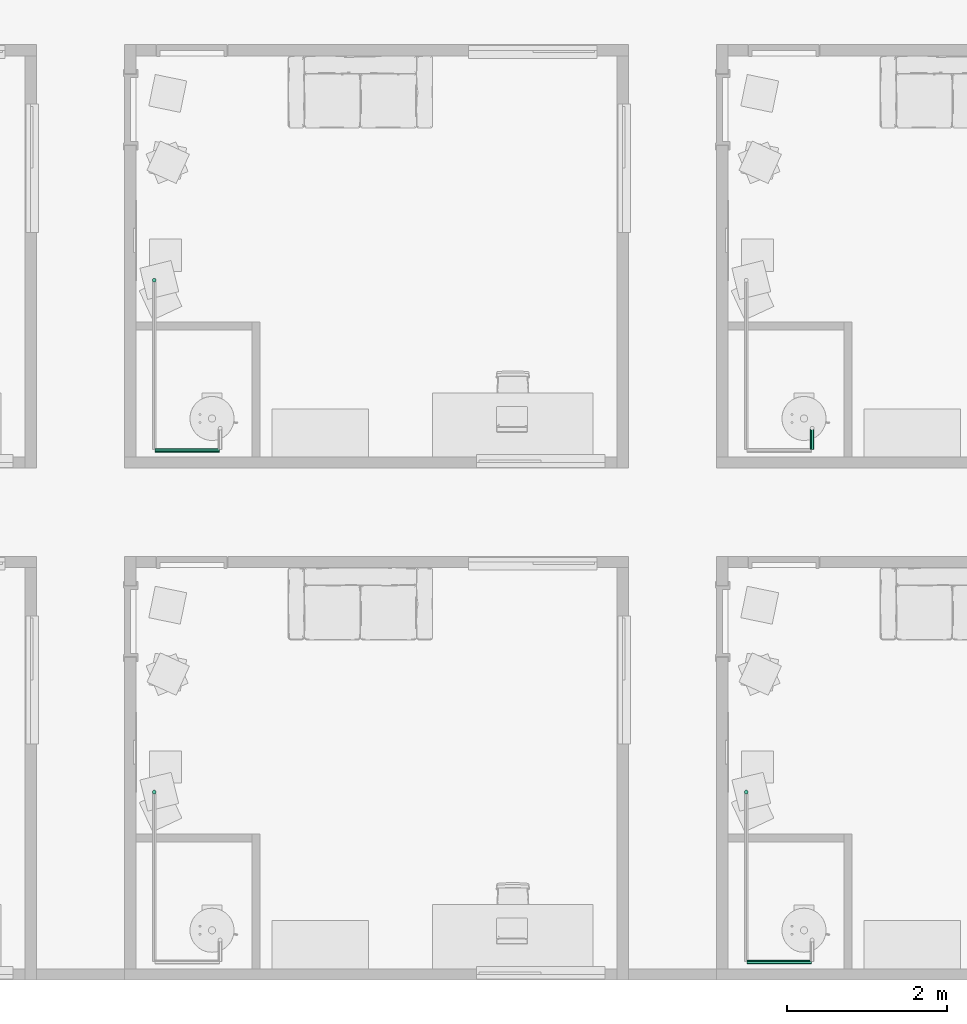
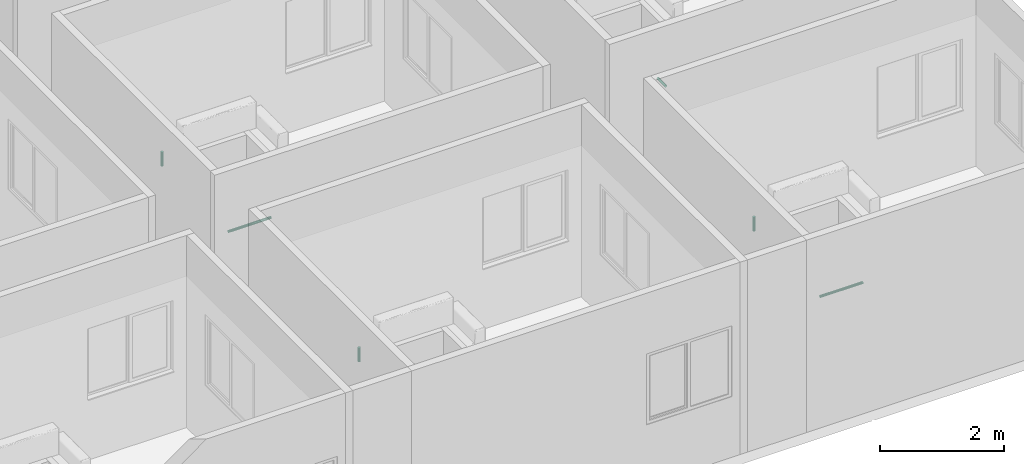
# One storey, part 50 of 71: 6 pipe segments.
"""IFC4 building model written with IfcOpenShell, lengths in centimetres."""

from ifc_helpers import new_model, entity, si_unit, converted_unit, derived_unit, direction, frame, origin, place, context, subcontext, project, spatial, arc, indexed_curve, outline, extrude, type_object, element, save


model = new_model("IFC4")

# Units and contexts
model_context = context("Model", 3, precision=0.001, world=origin(), true_north=direction((6.123233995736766e-17, 1.0)))
body_context = subcontext(model_context, "Body", "Model", "MODEL_VIEW")
ifc_project = project(units=[si_unit("LENGTHUNIT", "METRE", prefix="CENTI"), si_unit("AREAUNIT", "SQUARE_METRE"), si_unit("VOLUMEUNIT", "CUBIC_METRE"), derived_unit("THERMALTRANSMITTANCEUNIT", [(si_unit("MASSUNIT", "GRAM", prefix="KILO"), 1), (si_unit("THERMODYNAMICTEMPERATUREUNIT", "KELVIN"), -1), (si_unit("TIMEUNIT", "SECOND"), -3)]), converted_unit("PLANEANGLEUNIT", "DEGREE", entity("IfcPlaneAngleMeasure", 0.017453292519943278), si_unit("PLANEANGLEUNIT", "RADIAN"), dimensions=[0, 0, 0, 0, 0, 0, 0]), derived_unit("MASSDENSITYUNIT", [(si_unit("MASSUNIT", "GRAM", prefix="KILO"), 1), (si_unit("LENGTHUNIT", "METRE"), -3)]), derived_unit("VAPORPERMEABILITYUNIT", [(si_unit("LENGTHUNIT", "METRE"), -1), (si_unit("TIMEUNIT", "SECOND"), 1)]), derived_unit("USERDEFINED", [(si_unit("MASSUNIT", "GRAM", prefix="KILO"), 1), (si_unit("TIMEUNIT", "SECOND"), -3), (si_unit("LENGTHUNIT", "METRE"), 3), (si_unit("ELECTRICCURRENTUNIT", "AMPERE"), -2)]), derived_unit("SPECIFICHEATCAPACITYUNIT", [(si_unit("THERMODYNAMICTEMPERATUREUNIT", "KELVIN"), -1), (si_unit("LENGTHUNIT", "METRE"), 2), (si_unit("TIMEUNIT", "SECOND"), -2)]), derived_unit("THERMALCONDUCTANCEUNIT", [(si_unit("MASSUNIT", "GRAM", prefix="KILO"), 1), (si_unit("THERMODYNAMICTEMPERATUREUNIT", "KELVIN"), -1), (si_unit("TIMEUNIT", "SECOND"), -3), (si_unit("LENGTHUNIT", "METRE"), 1)]), si_unit("PRESSUREUNIT", "PASCAL"), derived_unit("MODULUSOFELASTICITYUNIT", [(si_unit("MASSUNIT", "GRAM", prefix="KILO"), 1), (si_unit("LENGTHUNIT", "METRE"), -1), (si_unit("TIMEUNIT", "SECOND"), -2)]), derived_unit("THERMALEXPANSIONCOEFFICIENTUNIT", [(si_unit("THERMODYNAMICTEMPERATUREUNIT", "KELVIN"), -1)])], contexts=[model_context])

# Site, building, storey
site_placement = place(None, origin())
site = spatial("IfcSite", under=ifc_project, at=site_placement, Name="Default", CompositionType="ELEMENT")
building_placement = place(site_placement, origin())
building = spatial("IfcBuilding", under=site, at=building_placement, Name="IDS Escape Game Building", CompositionType="ELEMENT")
storey_placement = place(building_placement, frame((0.0, 0.0, 400.0)))
storey = spatial("IfcBuildingStorey", under=building, at=storey_placement, Name="01_First Floor", CompositionType="ELEMENT", Elevation=399.99999999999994)

# Pipe segments
pipe_segment_type = type_object("IfcPipeSegmentType", Name="Pipe Types:Piping Aluminum", PredefinedType="NOTDEFINED")
pipe_segment_1_placement = place(storey_placement, origin())
element("IfcPipeSegment", 1, at=pipe_segment_1_placement, inside=storey, type_object=pipe_segment_type, Name="Pipe Types:Piping Aluminum", ObjectType="Pipe Types:Piping Aluminum", PredefinedType="NOTDEFINED", context=body_context, shape_type="SweptSolid", body=[
    extrude(outline(indexed_curve([(2.412999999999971, -2.7071678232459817e-14), (1.7062486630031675, 1.7062486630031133), (0.0, 2.412999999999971), (-1.7062486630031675, 1.7062486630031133), (-2.412999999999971, 0.0), (-1.7062486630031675, -1.7062486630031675), (0.0, -2.413000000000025), (1.7062486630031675, -1.7062486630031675)], segments=[arc(1, 2, 3), arc(3, 4, 5), arc(5, 6, 7), arc(7, 8, 1)], self_intersect=False)), frame((3720.0467168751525, 233.26482792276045, 244.09999999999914), z_axis=(0.0, 0.0, 1.0), x_axis=(-1.0, 0.0, 0.0)), (0.0, 0.0, 1.0), 27.900000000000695),
])
pipe_segment_2_placement = place(storey_placement, origin())
element("IfcPipeSegment", 2, at=pipe_segment_2_placement, inside=storey, type_object=pipe_segment_type, Name="Pipe Types:Piping Aluminum", ObjectType="Pipe Types:Piping Aluminum", PredefinedType="NOTDEFINED", context=body_context, shape_type="SweptSolid", body=[
    extrude(outline(indexed_curve([(2.412999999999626, -2.165734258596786e-13), (1.7062486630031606, 1.7062486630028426), (3.790034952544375e-13, 2.4130000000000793), (-1.7062486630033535, 1.706248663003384), (-2.4130000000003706, -2.165734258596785e-13), (-1.706248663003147, -1.706248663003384), (3.654676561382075e-13, -2.412999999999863), (1.7062486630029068, -1.7062486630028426)], segments=[arc(1, 2, 3), arc(3, 4, 5), arc(5, 6, 7), arc(7, 8, 1)], self_intersect=False)), frame((4459.146716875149, 21.26482792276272, 242.0), z_axis=(1.0, 0.0, 0.0), x_axis=(0.0, 1.0, 0.0)), (0.0, 0.0, 1.0), 79.90328312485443),
])
pipe_segment_3_placement = place(storey_placement, origin())
element("IfcPipeSegment", 3, at=pipe_segment_3_placement, inside=storey, type_object=pipe_segment_type, Name="Pipe Types:Piping Aluminum", ObjectType="Pipe Types:Piping Aluminum", PredefinedType="NOTDEFINED", context=body_context, shape_type="SweptSolid", body=[
    extrude(outline(indexed_curve([(2.4130000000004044, -2.7071678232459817e-14), (1.7062486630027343, 1.7062486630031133), (0.0, 2.412999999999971), (-1.7062486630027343, 1.7062486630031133), (-2.4130000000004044, 0.0), (-1.7062486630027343, -1.7062486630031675), (0.0, -2.413000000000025), (1.7062486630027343, -1.7062486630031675)], segments=[arc(1, 2, 3), arc(3, 4, 5), arc(5, 6, 7), arc(7, 8, 1)], self_intersect=False)), frame((4458.046716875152, 233.26482792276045, 244.09999999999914), z_axis=(0.0, 0.0, 1.0), x_axis=(-1.0, 0.0, 0.0)), (0.0, 0.0, 1.0), 27.900000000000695),
])
pipe_segment_4_placement = place(storey_placement, origin())
element("IfcPipeSegment", 4, at=pipe_segment_4_placement, inside=storey, type_object=pipe_segment_type, Name="Pipe Types:Piping Aluminum", ObjectType="Pipe Types:Piping Aluminum", PredefinedType="NOTDEFINED", context=body_context, shape_type="SweptSolid", body=[
    extrude(outline(indexed_curve([(2.4129999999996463, -2.165734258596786e-13), (1.7062486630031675, 1.7062486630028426), (4.331468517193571e-13, 2.4130000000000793), (-1.7062486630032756, 1.706248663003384), (-2.413000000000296, -2.165734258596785e-13), (-1.706248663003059, -1.706248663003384), (4.3314685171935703e-13, -2.412999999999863), (1.7062486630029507, -1.7062486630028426)], segments=[arc(1, 2, 3), arc(3, 4, 5), arc(5, 6, 7), arc(7, 8, 1)], self_intersect=False)), frame((3721.1467168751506, 659.2648279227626, 242.0), z_axis=(1.0, 0.0, 0.0), x_axis=(0.0, 1.0, 0.0)), (0.0, 0.0, 1.0), 79.90328312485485),
])
pipe_segment_5_placement = place(storey_placement, origin())
element("IfcPipeSegment", 5, at=pipe_segment_5_placement, inside=storey, type_object=pipe_segment_type, Name="Pipe Types:Piping Aluminum", ObjectType="Pipe Types:Piping Aluminum", PredefinedType="NOTDEFINED", context=body_context, shape_type="SweptSolid", body=[
    extrude(outline(indexed_curve([(2.412999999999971, 0.0), (1.7062486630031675, 1.7062486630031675), (0.0, 2.412999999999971), (-1.7062486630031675, 1.7062486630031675), (-2.412999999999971, 0.0), (-1.7062486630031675, -1.7062486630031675), (0.0, -2.412999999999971), (1.7062486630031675, -1.7062486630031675)], segments=[arc(1, 2, 3), arc(3, 4, 5), arc(5, 6, 7), arc(7, 8, 1)], self_intersect=False)), frame((3720.046716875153, 871.2648279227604, 244.09999999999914), z_axis=(0.0, 0.0, 1.0), x_axis=(-1.0, 0.0, 0.0)), (0.0, 0.0, 1.0), 27.900000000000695),
])
pipe_segment_6_placement = place(storey_placement, origin())
element("IfcPipeSegment", 6, at=pipe_segment_6_placement, inside=storey, type_object=pipe_segment_type, Name="Pipe Types:Piping Aluminum", ObjectType="Pipe Types:Piping Aluminum", PredefinedType="NOTDEFINED", context=body_context, shape_type="SweptSolid", body=[
    extrude(outline(indexed_curve([(2.412999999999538, 0.0), (1.7062486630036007, 1.706248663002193), (1.7325874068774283e-12, 2.412999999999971), (-1.7062486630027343, 1.7062486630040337), (-2.413000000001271, 0.0), (-1.7062486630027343, -1.7062486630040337), (1.7325874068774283e-12, -2.412999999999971), (1.7062486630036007, -1.706248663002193)], segments=[arc(1, 2, 3), arc(3, 4, 5), arc(5, 6, 7), arc(7, 8, 1)], self_intersect=False)), frame((4540.150000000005, 660.3648279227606, 242.0), z_axis=(0.0, 1.0, 0.0), x_axis=(-1.0, 0.0, 0.0)), (0.0, 0.0, 1.0), 25.43517207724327),
])

save(model, "model.ifc")
